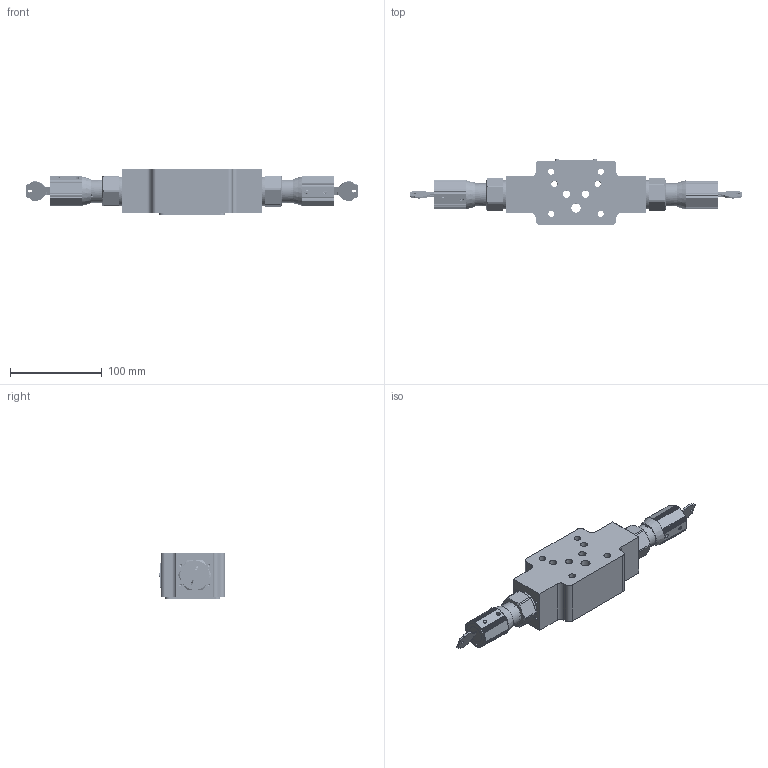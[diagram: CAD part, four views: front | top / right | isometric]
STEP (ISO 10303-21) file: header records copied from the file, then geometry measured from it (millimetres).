
FILE_DESCRIPTION(/* description */ (''),/* implementation_level */ '2;1');
FILE_NAME(/* name */ 'Z2FS10-3-3XJ.stp',/* time_stamp */ '2024-10-09T08:05:39+08:00',/* author */ (''),/* organization */ (''),/* preprocessor_version */ 'ST-DEVELOPER v16.7',/* originating_system */ 'SIEMENS PLM Software NX 12.0',/* authorisation */ '');
FILE_SCHEMA (('AUTOMOTIVE_DESIGN { 1 0 10303 214 3 1 1 1 }'));
Products named in the file (1): Z2FS10-3-3X
Bounding box: 361.44 x 71.6 x 50.6 mm (x, y, z)
Volume: 489441.9 mm3; surface area: 148948 mm2
Topology: 59 solids, 59 shells, 1309 faces, 3241 edges, 2072 vertices
Faces by surface type: cylinder 583, plane 450, cone 115, bspline 114, torus 38, sphere 9
Full cylindrical faces by diameter (mm): 1.2 x2, 1.5 x2, 1.6 x4, 1.8 x4, 2 x26, 2.5 x8, 3 x8, 3.1 x4, 4 x12, 4.5 x4, 6 x3, 6.5 x8, 6.7 x4, 7 x8, 7.5 x4, 8 x4, 8.5 x4, 9 x2, 10 x3, 10.5 x2, 10.7 x2, 11 x4, 11.2 x4, 11.4 x4, 11.6 x2, 12 x14, 15.7 x9, 17 x4, 18 x8, 19 x6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
Entity records: 140065 total; most frequent: CARTESIAN_POINT 111769, DIRECTION 5538, ORIENTED_EDGE 5292, EDGE_CURVE 2646, AXIS2_PLACEMENT_3D 2283, VERTEX_POINT 1938, EDGE_LOOP 1903, ADVANCED_FACE 1287
